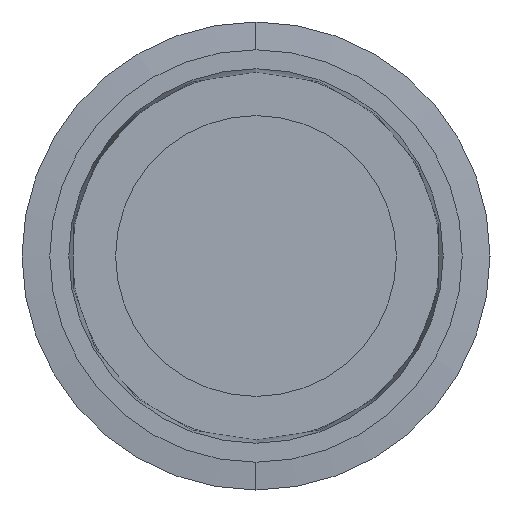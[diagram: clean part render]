
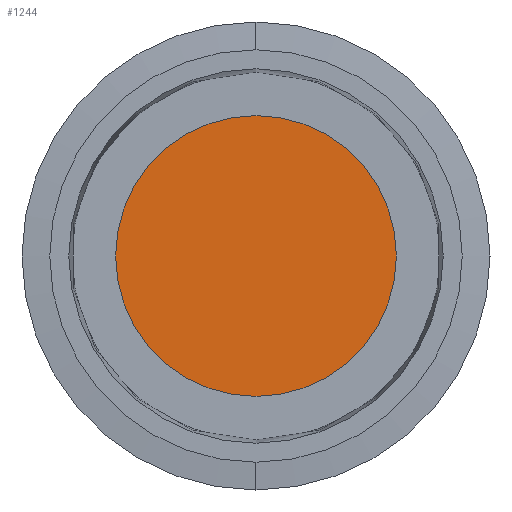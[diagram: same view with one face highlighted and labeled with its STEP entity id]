
A CAD part, left-side view. The second image highlights one B-rep face of the part: STEP entity #1244.
In plain terms, the highlighted planar face has unit normal (-1, 0, 0).
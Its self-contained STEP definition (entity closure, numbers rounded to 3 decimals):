
#69 = EDGE_CURVE ( 'NONE', #738, #484, #635, .T. ) ;
#86 = ORIENTED_EDGE ( 'NONE', *, *, #69, .T. ) ;
#183 = EDGE_CURVE ( 'NONE', #484, #738, #514, .T. ) ;
#226 = AXIS2_PLACEMENT_3D ( 'NONE', #1092, #481, #1078 ) ;
#383 = FACE_OUTER_BOUND ( 'NONE', #801, .T. ) ;
#449 = AXIS2_PLACEMENT_3D ( 'NONE', #941, #928, #688 ) ;
#458 = ORIENTED_EDGE ( 'NONE', *, *, #183, .T. ) ;
#481 = DIRECTION ( 'NONE',  ( -1., 0., 0. ) ) ;
#484 = VERTEX_POINT ( 'NONE', #1062 ) ;
#514 = CIRCLE ( 'NONE', #226, 3. ) ;
#620 = PLANE ( 'NONE',  #449 ) ;
#635 = CIRCLE ( 'NONE', #1155, 3. ) ;
#688 = DIRECTION ( 'NONE',  ( 0., 0., 1. ) ) ;
#738 = VERTEX_POINT ( 'NONE', #1119 ) ;
#801 = EDGE_LOOP ( 'NONE', ( #86, #458 ) ) ;
#928 = DIRECTION ( 'NONE',  ( -1., 0., 0. ) ) ;
#941 = CARTESIAN_POINT ( 'NONE',  ( 6., 0., 0. ) ) ;
#1062 = CARTESIAN_POINT ( 'NONE',  ( 6., 0., -3. ) ) ;
#1078 = DIRECTION ( 'NONE',  ( 0., 0., 1. ) ) ;
#1092 = CARTESIAN_POINT ( 'NONE',  ( 6., 0., 0. ) ) ;
#1119 = CARTESIAN_POINT ( 'NONE',  ( 6., 0., 3. ) ) ;
#1155 = AXIS2_PLACEMENT_3D ( 'NONE', #1265, #1209, #1200 ) ;
#1200 = DIRECTION ( 'NONE',  ( 0., 0., 1. ) ) ;
#1209 = DIRECTION ( 'NONE',  ( -1., 0., 0. ) ) ;
#1244 = ADVANCED_FACE ( 'NONE', ( #383 ), #620, .T. ) ;
#1265 = CARTESIAN_POINT ( 'NONE',  ( 6., 0., 0. ) ) ;
